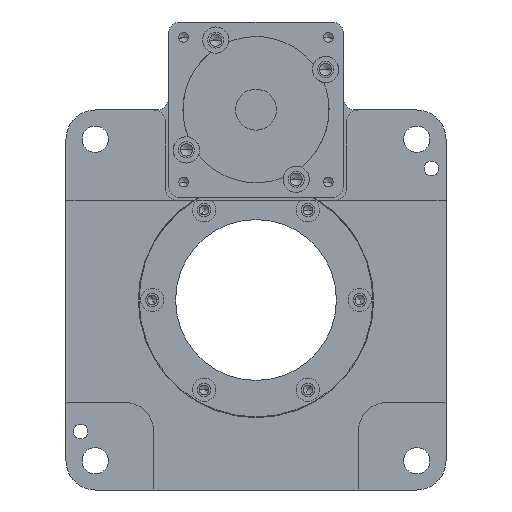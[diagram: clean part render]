
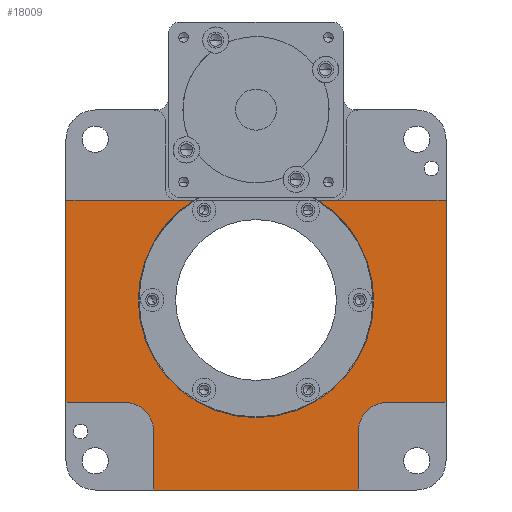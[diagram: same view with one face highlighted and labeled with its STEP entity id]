
A CAD part, front view. The second image highlights one B-rep face of the part: STEP entity #18009.
In plain terms, the highlighted planar face has unit normal (0, -1, 0).
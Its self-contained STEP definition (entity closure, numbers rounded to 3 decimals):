
#13986=DIRECTION('',(0.,0.,-1.));
#13987=VECTOR('',#13986,69.1);
#13988=CARTESIAN_POINT('',(-65.,0.5,34.1));
#13989=LINE('',#13988,#13987);
#14052=CARTESIAN_POINT('',(0.,0.5,0.));
#14053=DIRECTION('',(0.,-1.,0.));
#14054=DIRECTION('',(-1.,0.,0.));
#14055=AXIS2_PLACEMENT_3D('',#14052,#14053,#14054);
#14057=CARTESIAN_POINT('',(0.,0.5,0.));
#14058=DIRECTION('',(0.,-1.,0.));
#14059=DIRECTION('',(1.,0.,0.));
#14060=AXIS2_PLACEMENT_3D('',#14057,#14058,#14059);
#14062=DIRECTION('',(1.,0.,0.));
#14063=VECTOR('',#14062,38.);
#14064=CARTESIAN_POINT('',(27.,0.5,34.1));
#14065=LINE('',#14064,#14063);
#14066=DIRECTION('',(-1.,0.,0.));
#14067=VECTOR('',#14066,20.);
#14068=CARTESIAN_POINT('',(65.,0.5,-35.));
#14069=LINE('',#14068,#14067);
#14070=CARTESIAN_POINT('',(45.,0.5,-45.));
#14071=DIRECTION('',(0.,-1.,0.));
#14072=DIRECTION('',(0.,0.,1.));
#14073=AXIS2_PLACEMENT_3D('',#14070,#14071,#14072);
#14075=DIRECTION('',(0.,0.,-1.));
#14076=VECTOR('',#14075,20.);
#14077=CARTESIAN_POINT('',(35.,0.5,-45.));
#14078=LINE('',#14077,#14076);
#14079=DIRECTION('',(0.,0.,1.));
#14080=VECTOR('',#14079,20.);
#14081=CARTESIAN_POINT('',(-35.,0.5,-65.));
#14082=LINE('',#14081,#14080);
#14083=CARTESIAN_POINT('',(-45.,0.5,-45.));
#14084=DIRECTION('',(0.,-1.,0.));
#14085=DIRECTION('',(1.,0.,0.));
#14086=AXIS2_PLACEMENT_3D('',#14083,#14084,#14085);
#14088=DIRECTION('',(-1.,0.,0.));
#14089=VECTOR('',#14088,20.);
#14090=CARTESIAN_POINT('',(-45.,0.5,-35.));
#14091=LINE('',#14090,#14089);
#14092=DIRECTION('',(1.,0.,0.));
#14093=VECTOR('',#14092,38.);
#14094=CARTESIAN_POINT('',(-65.,0.5,34.1));
#14095=LINE('',#14094,#14093);
#14096=CARTESIAN_POINT('',(0.,0.5,0.));
#14097=DIRECTION('',(0.,-1.,0.));
#14098=DIRECTION('',(-0.531,0.,0.847));
#14099=AXIS2_PLACEMENT_3D('',#14096,#14097,#14098);
#14117=DIRECTION('',(-1.,0.,0.));
#14118=VECTOR('',#14117,5.617);
#14119=CARTESIAN_POINT('',(27.,0.5,34.1));
#14120=LINE('',#14119,#14118);
#14192=DIRECTION('',(0.,0.,1.));
#14193=VECTOR('',#14192,69.1);
#14194=CARTESIAN_POINT('',(65.,0.5,-35.));
#14195=LINE('',#14194,#14193);
#14308=DIRECTION('',(1.,0.,0.));
#14309=VECTOR('',#14308,70.);
#14310=CARTESIAN_POINT('',(-35.,0.5,-65.));
#14311=LINE('',#14310,#14309);
#15782=DIRECTION('',(-1.,0.,0.));
#15783=VECTOR('',#15782,5.617);
#15784=CARTESIAN_POINT('',(-21.383,0.5,34.1));
#15785=LINE('',#15784,#15783);
#17009=CARTESIAN_POINT('',(35.,0.5,-45.));
#17010=VERTEX_POINT('',#17009);
#17011=CARTESIAN_POINT('',(45.,0.5,-35.));
#17012=VERTEX_POINT('',#17011);
#17013=CARTESIAN_POINT('',(35.,0.5,-65.));
#17014=VERTEX_POINT('',#17013);
#17015=CARTESIAN_POINT('',(-35.,0.5,-65.));
#17016=VERTEX_POINT('',#17015);
#17017=CARTESIAN_POINT('',(65.,0.5,-35.));
#17018=VERTEX_POINT('',#17017);
#17019=CARTESIAN_POINT('',(65.,0.5,34.1));
#17020=VERTEX_POINT('',#17019);
#17143=CARTESIAN_POINT('',(21.383,0.5,34.1));
#17144=VERTEX_POINT('',#17143);
#17145=CARTESIAN_POINT('',(40.25,0.5,0.));
#17146=VERTEX_POINT('',#17145);
#17151=CARTESIAN_POINT('',(-40.25,0.5,0.));
#17152=VERTEX_POINT('',#17151);
#17153=CARTESIAN_POINT('',(-21.383,0.5,34.1));
#17154=VERTEX_POINT('',#17153);
#17155=CARTESIAN_POINT('',(27.,0.5,34.1));
#17156=VERTEX_POINT('',#17155);
#17157=CARTESIAN_POINT('',(-27.,0.5,34.1));
#17158=VERTEX_POINT('',#17157);
#17159=CARTESIAN_POINT('',(-65.,0.5,34.1));
#17160=VERTEX_POINT('',#17159);
#17161=CARTESIAN_POINT('',(-35.,0.5,-45.));
#17162=VERTEX_POINT('',#17161);
#17163=CARTESIAN_POINT('',(-45.,0.5,-35.));
#17164=VERTEX_POINT('',#17163);
#17165=CARTESIAN_POINT('',(-65.,0.5,-35.));
#17166=VERTEX_POINT('',#17165);
#17973=CARTESIAN_POINT('',(0.,0.5,0.));
#17974=DIRECTION('',(0.,-1.,0.));
#17975=DIRECTION('',(-1.,0.,0.));
#17976=AXIS2_PLACEMENT_3D('',#17973,#17974,#17975);
#17977=PLANE('',#17976);
#17979=ORIENTED_EDGE('',*,*,#17978,.T.);
#17981=ORIENTED_EDGE('',*,*,#17980,.T.);
#17983=ORIENTED_EDGE('',*,*,#17982,.F.);
#17985=ORIENTED_EDGE('',*,*,#17984,.T.);
#17987=ORIENTED_EDGE('',*,*,#17986,.F.);
#17989=ORIENTED_EDGE('',*,*,#17988,.T.);
#17991=ORIENTED_EDGE('',*,*,#17990,.T.);
#17993=ORIENTED_EDGE('',*,*,#17992,.T.);
#17995=ORIENTED_EDGE('',*,*,#17994,.F.);
#17997=ORIENTED_EDGE('',*,*,#17996,.T.);
#17998=ORIENTED_EDGE('',*,*,#17953,.T.);
#17999=ORIENTED_EDGE('',*,*,#17968,.T.);
#18000=ORIENTED_EDGE('',*,*,#17891,.F.);
#18002=ORIENTED_EDGE('',*,*,#18001,.T.);
#18004=ORIENTED_EDGE('',*,*,#18003,.F.);
#18006=ORIENTED_EDGE('',*,*,#18005,.T.);
#18007=EDGE_LOOP('',(#17979,#17981,#17983,#17985,#17987,#17989,#17991,#17993,
#17995,#17997,#17998,#17999,#18000,#18002,#18004,#18006));
#18008=FACE_OUTER_BOUND('',#18007,.F.);
#18009=ADVANCED_FACE('',(#18008),#17977,.T.);
#14056=CIRCLE('',#14055,40.25);
#14061=CIRCLE('',#14060,40.25);
#14074=CIRCLE('',#14073,10.);
#14087=CIRCLE('',#14086,10.);
#14100=CIRCLE('',#14099,40.25);
#17891=EDGE_CURVE('',#17160,#17166,#13989,.T.);
#17953=EDGE_CURVE('',#17162,#17164,#14087,.T.);
#17968=EDGE_CURVE('',#17164,#17166,#14091,.T.);
#17978=EDGE_CURVE('',#17152,#17146,#14056,.T.);
#17980=EDGE_CURVE('',#17146,#17144,#14061,.T.);
#17982=EDGE_CURVE('',#17156,#17144,#14120,.T.);
#17984=EDGE_CURVE('',#17156,#17020,#14065,.T.);
#17986=EDGE_CURVE('',#17018,#17020,#14195,.T.);
#17988=EDGE_CURVE('',#17018,#17012,#14069,.T.);
#17990=EDGE_CURVE('',#17012,#17010,#14074,.T.);
#17992=EDGE_CURVE('',#17010,#17014,#14078,.T.);
#17994=EDGE_CURVE('',#17016,#17014,#14311,.T.);
#17996=EDGE_CURVE('',#17016,#17162,#14082,.T.);
#18001=EDGE_CURVE('',#17160,#17158,#14095,.T.);
#18003=EDGE_CURVE('',#17154,#17158,#15785,.T.);
#18005=EDGE_CURVE('',#17154,#17152,#14100,.T.);
